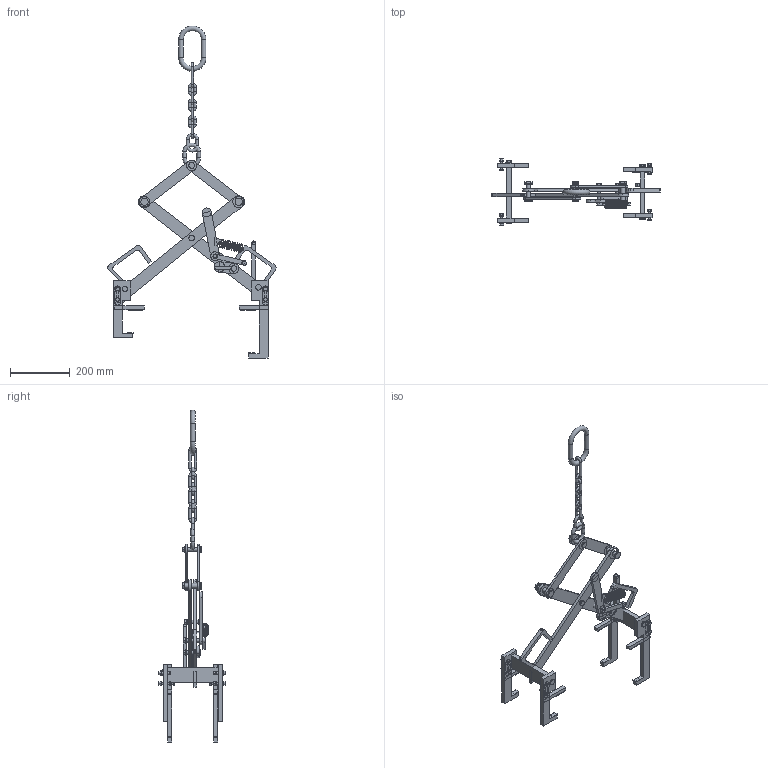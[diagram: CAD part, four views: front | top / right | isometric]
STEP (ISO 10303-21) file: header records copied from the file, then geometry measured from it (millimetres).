
FILE_DESCRIPTION(('Open CASCADE Model'),'2;1');
FILE_NAME('Open CASCADE Shape Model','2026-10-20T13:19:57',('Author'),( 'Open CASCADE'),'Open CASCADE STEP processor 7.9','Open CASCADE 7.9' ,'Unknown');
FILE_SCHEMA(('AUTOMOTIVE_DESIGN { 1 0 10303 214 1 1 1 1 }'));
Length unit declared in the file: millimetre
Products named in the file (100): Cylinder_blank_lifting_device_DXF_W2024_22_11; 01_Crossed_arm_left_jaw; 02_Crossed_arm_right_jaw; 03_Upper_link_left; 03_Upper_link_right; 04_Top_pin; 04_Top_pin_washer; 04_Top_pin_nut; 04_Left_pin; 04_Left_pin_washer; 04_Left_pin_nut; 04_Right_pin; 04_Right_pin_washer; 04_Right_pin_nut; 04_Cross_pin; 04_Cross_pin_washer; 04_Cross_pin_nut; 05_Carrier_L; 06_Hook_L1; 07_Toe_protector_L1; 08_Top_contact_L1; 08_Seal_protection_L1; 09_Slotted_ear_L1; 10_Hook_bolt_L1_33; 10_Hook_bolt_L1_33_washer; 10_Hook_bolt_L1_33_nut; 10_Hook_bolt_L1_68; 10_Hook_bolt_L1_68_washer; 10_Hook_bolt_L1_68_nut; 06_Hook_L2; 07_Toe_protector_L2; 08_Top_contact_L2; 08_Seal_protection_L2; 09_Slotted_ear_L2; 10_Hook_bolt_L2_33; 10_Hook_bolt_L2_33_washer; 10_Hook_bolt_L2_33_nut; 10_Hook_bolt_L2_68; 10_Hook_bolt_L2_68_washer; 10_Hook_bolt_L2_68_nut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
Assembly tree (99 placements, depth 2):
  Cylinder_blank_lifting_device_DXF_W2024_22_11
    01_Crossed_arm_left_jaw
    02_Crossed_arm_right_jaw
    03_Upper_link_left
    03_Upper_link_right
    04_Top_pin
    04_Top_pin_washer
    04_Top_pin_nut
    04_Left_pin
    04_Left_pin_washer
    04_Left_pin_nut
    04_Right_pin
    04_Right_pin_washer
    04_Right_pin_nut
    04_Cross_pin
    04_Cross_pin_washer
    04_Cross_pin_nut
    05_Carrier_L
    06_Hook_L1
    07_Toe_protector_L1
    08_Top_contact_L1
    08_Seal_protection_L1
    09_Slotted_ear_L1
    10_Hook_bolt_L1_33
    10_Hook_bolt_L1_33_washer
    10_Hook_bolt_L1_33_nut
    10_Hook_bolt_L1_68
    10_Hook_bolt_L1_68_washer
    10_Hook_bolt_L1_68_nut
    06_Hook_L2
    07_Toe_protector_L2
    08_Top_contact_L2
    08_Seal_protection_L2
    09_Slotted_ear_L2
    10_Hook_bolt_L2_33
    10_Hook_bolt_L2_33_washer
    10_Hook_bolt_L2_33_nut
    10_Hook_bolt_L2_68
    10_Hook_bolt_L2_68_washer
    10_Hook_bolt_L2_68_nut
    11_End_pin_L
    11_End_pin_L_washer
    11_End_pin_L_nut
    05_Carrier_R
    06_Hook_R1
    07_Toe_protector_R1
    08_Top_contact_R1
    08_Seal_protection_R1
    09_Slotted_ear_R1
    10_Hook_bolt_R1_33
    10_Hook_bolt_R1_33_washer
    10_Hook_bolt_R1_33_nut
    10_Hook_bolt_R1_68
    10_Hook_bolt_R1_68_washer
    10_Hook_bolt_R1_68_nut
    06_Hook_R2
    07_Toe_protector_R2
    08_Top_contact_R2
    08_Seal_protection_R2
    09_Slotted_ear_R2
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Bounding box: 567.08 x 222 x 1115.87 mm (x, y, z)
Volume: 1859694.1 mm3; surface area: 538628.9 mm2
Topology: 99 solids, 99 shells, 803 faces, 1694 edges, 1062 vertices
Faces by surface type: plane 607, cylinder 175, torus 20, bspline 1
Full cylindrical faces by diameter (mm): 5 x4, 8 x30, 8.2 x8, 8.32 x8, 9.45 x2, 10 x2, 12 x14, 12.4 x8, 12.48 x6, 12.5 x8, 12.8 x8, 13 x3, 16 x6, 16.64 x2, 17 x4, 18.6 x6, 19.2 x6, 19.375 x1, 20 x1, 24.8 x2, 25.6 x2
Entity records: 47278 total; most frequent: CARTESIAN_POINT 8937, DIRECTION 7141, LINE 3925, VECTOR 3925, ORIENTED_EDGE 3388, PCURVE 3388, DEFINITIONAL_REPRESENTATION 3388, EDGE_CURVE 1694
